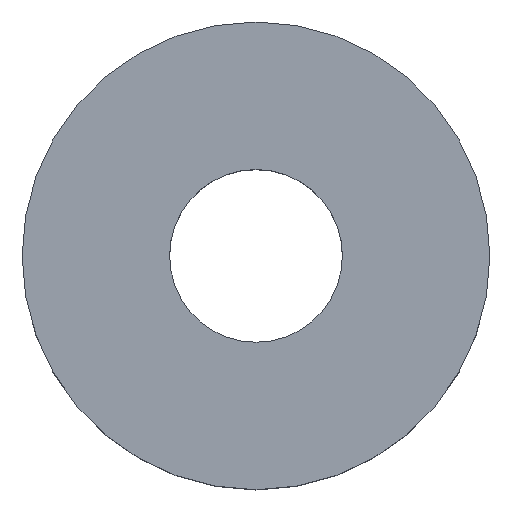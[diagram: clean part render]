
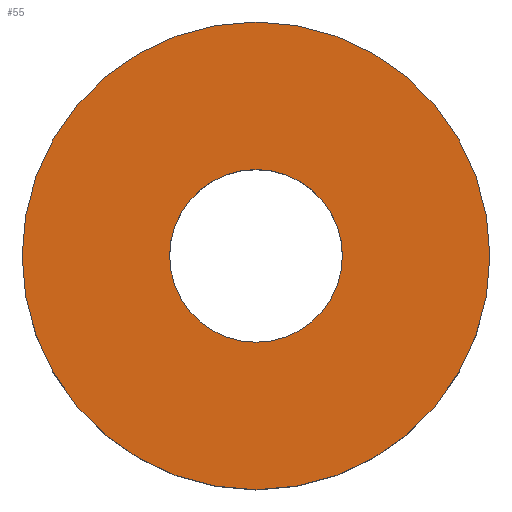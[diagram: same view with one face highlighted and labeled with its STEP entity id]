
A CAD part, top view. The second image highlights one B-rep face of the part: STEP entity #55.
In plain terms, the highlighted planar face has unit normal (0, 0, 1).
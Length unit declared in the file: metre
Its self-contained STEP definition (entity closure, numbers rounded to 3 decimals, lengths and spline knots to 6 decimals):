
#13=PLANE('',#76);
#20=ORIENTED_EDGE('',*,*,#23,.F.);
#21=ORIENTED_EDGE('',*,*,#25,.T.);
#23=EDGE_CURVE('',#27,#27,#31,.T.);
#25=EDGE_CURVE('',#29,#29,#33,.T.);
#27=VERTEX_POINT('',#100);
#29=VERTEX_POINT('',#105);
#31=CIRCLE('',#71,0.0041);
#33=CIRCLE('',#74,0.0111);
#40=EDGE_LOOP('',(#20));
#41=EDGE_LOOP('',(#21));
#48=FACE_BOUND('',#40,.T.);
#49=FACE_BOUND('',#41,.T.);
#55=ADVANCED_FACE('',(#48,#49),#13,.T.);
#71=AXIS2_PLACEMENT_3D('',#99,#83,#84);
#74=AXIS2_PLACEMENT_3D('',#104,#89,#90);
#76=AXIS2_PLACEMENT_3D('',#107,#93,#94);
#83=DIRECTION('',(0.,0.,1.));
#84=DIRECTION('',(1.,0.,0.));
#89=DIRECTION('',(0.,0.,1.));
#90=DIRECTION('',(1.,0.,0.));
#93=DIRECTION('',(0.,0.,1.));
#94=DIRECTION('',(1.,0.,0.));
#99=CARTESIAN_POINT('',(0.,0.,0.058));
#100=CARTESIAN_POINT('',(0.0041,0.,0.058));
#104=CARTESIAN_POINT('',(0.,0.,0.058));
#105=CARTESIAN_POINT('',(0.0111,0.,0.058));
#107=CARTESIAN_POINT('',(0.,-0.005,0.058));
